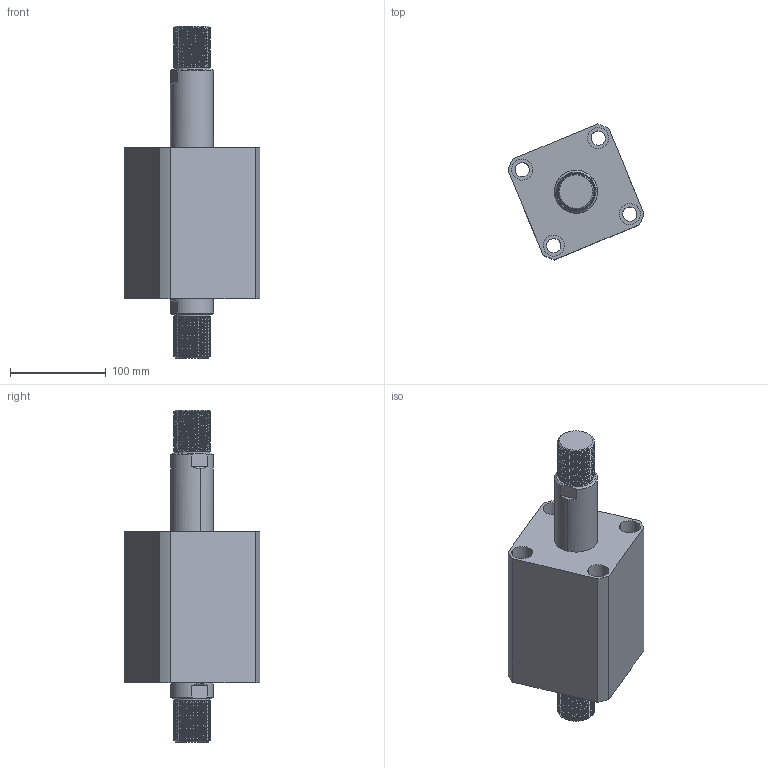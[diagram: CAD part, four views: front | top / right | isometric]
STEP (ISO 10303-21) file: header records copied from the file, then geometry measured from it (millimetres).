
FILE_DESCRIPTION (( 'STEP AP214' ), '1' );
FILE_NAME ('chtb-sw80x65w_asm.STEP', '2018-05-28T01:56:38', ( 'Windows' ), ( 'Microsoft' ), 'SwSTEP 2.0', 'SolidWorks 2015', '' );
FILE_SCHEMA (( 'AUTOMOTIVE_DESIGN' ));
Length unit declared in the file: millimetre
Products named in the file (4): CHTB-SW80X65WHSG; CHTB-SW80X65NBT; CHTB-SD80QG; chtb-sw80x65w_asm
Assembly tree (3 placements, depth 2):
  chtb-sw80x65w_asm
    CHTB-SD80QG
    CHTB-SW80X65NBT
    CHTB-SW80X65WHSG
Bounding box: 142.06 x 142.06 x 347 mm (x, y, z)
Volume: 1905936.9 mm3; surface area: 257265.2 mm2
Topology: 3 solids, 3 shells, 330 faces, 908 edges, 607 vertices
Faces by surface type: cylinder 221, plane 48, cone 25, bspline 18, torus 18
Entity records: 25864 total; most frequent: CARTESIAN_POINT 18238, ORIENTED_EDGE 1808, DIRECTION 1338, EDGE_CURVE 904, VERTEX_POINT 607, AXIS2_PLACEMENT_3D 532, EDGE_LOOP 373, ADVANCED_FACE 330
